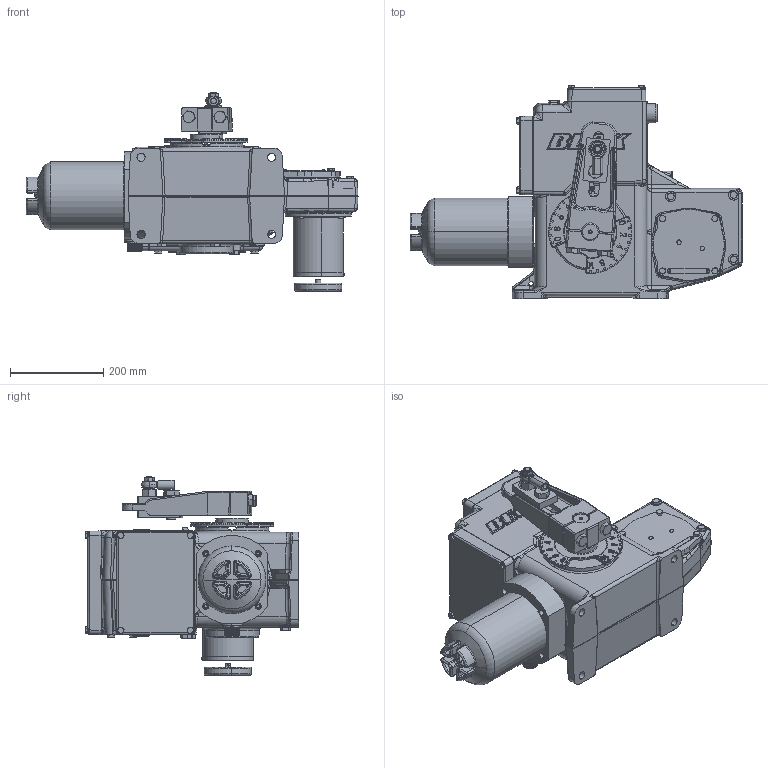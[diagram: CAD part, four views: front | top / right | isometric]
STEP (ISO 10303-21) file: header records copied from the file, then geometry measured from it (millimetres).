
FILE_DESCRIPTION (( 'STEP AP203' ), '1' );
FILE_NAME ('18-0200-03.STEP', '2014-01-09T16:00:26', ( '' ), ( '' ), 'SwSTEP 2.0', 'SolidWorks 2013', '' );
FILE_SCHEMA (( 'CONFIG_CONTROL_DESIGN' ));
Length unit declared in the file: inch
Products named in the file (1): 18-0200-03
Bounding box: 710.83 x 456.9 x 424.92 mm (x, y, z)
Surface area: 1248837.5 mm2 (no closed solid volume)
Topology: 0 solids, 114 shells, 2237 faces, 8373 edges, 5937 vertices
Faces by surface type: cylinder 723, plane 712, bspline 326, torus 231, cone 198, sphere 47
Entity records: 114285 total; most frequent: CARTESIAN_POINT 49247, DIRECTION 12955, ORIENTED_EDGE 12387, EDGE_CURVE 8271, VERTEX_POINT 5937, AXIS2_PLACEMENT_3D 4686, VECTOR 3583, LINE 3583
